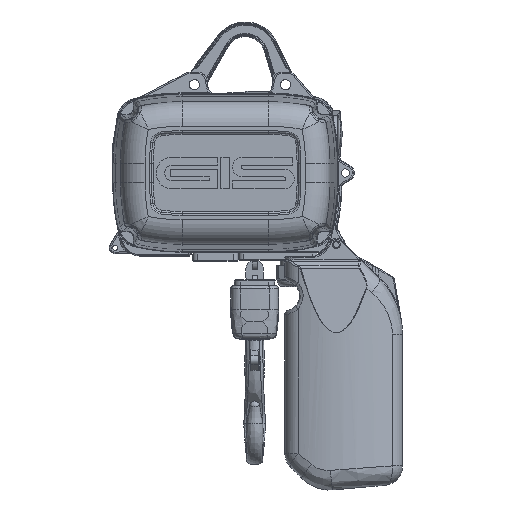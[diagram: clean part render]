
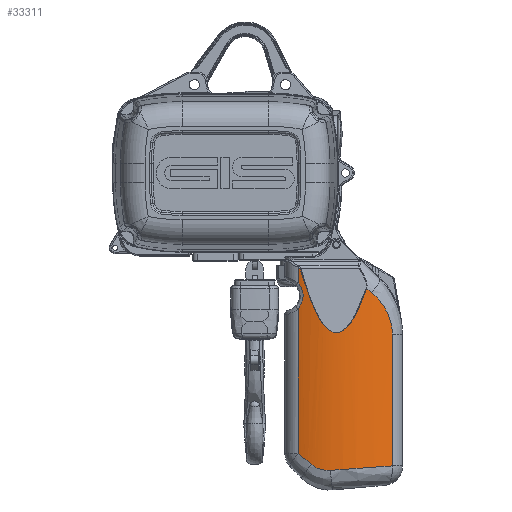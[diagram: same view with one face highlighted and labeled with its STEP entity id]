
A CAD part, front view. The second image highlights one B-rep face of the part: STEP entity #33311.
In plain terms, the highlighted cylindrical face has radius 120 mm (diameter 240 mm), a partial arc.
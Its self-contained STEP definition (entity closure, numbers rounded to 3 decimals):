
#1541=ELLIPSE('',#36800,1354.074,120.);
#1544=ELLIPSE('',#36817,156.205,120.);
#1545=ELLIPSE('',#36820,156.205,120.);
#1546=ELLIPSE('',#36821,120.319,120.);
#2578=B_SPLINE_CURVE_WITH_KNOTS('',3,(#106622,#106623,#106624,#106625,#106626,
#106627,#106628),.UNSPECIFIED.,.F.,.F.,(4,1,1,1,4),(-2.876,-2.054,
-1.643,-0.822,0.),.UNSPECIFIED.);
#2601=B_SPLINE_CURVE_WITH_KNOTS('',3,(#107371,#107372,#107373,#107374,#107375,
#107376),.UNSPECIFIED.,.F.,.F.,(4,1,1,4),(0.,0.129,0.215,
0.302),.UNSPECIFIED.);
#2604=B_SPLINE_CURVE_WITH_KNOTS('',3,(#107501,#107502,#107503,#107504,#107505,
#107506,#107507),.UNSPECIFIED.,.F.,.F.,(4,1,1,1,4),(0.,0.5,
1.001,1.251,1.751),.UNSPECIFIED.);
#2605=B_SPLINE_CURVE_WITH_KNOTS('',3,(#107512,#107513,#107514,#107515,#107516,
#107517,#107518,#107519,#107520,#107521,#107522,#107523,#107524,#107525,
#107526,#107527,#107528,#107529,#107530),.UNSPECIFIED.,.F.,.F.,(4,3,3,3,
3,3,4),(0.,0.681,1.361,2.382,2.722,
4.084,4.764),.UNSPECIFIED.);
#3116=CYLINDRICAL_SURFACE('',#36819,120.);
#5076=FACE_OUTER_BOUND('',#7116,.T.);
#7116=EDGE_LOOP('',(#28572,#28573,#28574,#28575,#28576,#28577,#28578,#28579,
#28580,#28581,#28582));
#10372=LINE('',#106673,#11741);
#10405=LINE('',#107497,#11774);
#10406=LINE('',#107511,#11775);
#11741=VECTOR('',#44841,16.121);
#11774=VECTOR('',#45062,147.514);
#11775=VECTOR('',#45067,134.23);
#14574=VERTEX_POINT('',#106576);
#14575=VERTEX_POINT('',#106620);
#14576=VERTEX_POINT('',#106672);
#14628=VERTEX_POINT('',#107290);
#14630=VERTEX_POINT('',#107335);
#14636=VERTEX_POINT('',#107492);
#14637=VERTEX_POINT('',#107496);
#14638=VERTEX_POINT('',#107498);
#14639=VERTEX_POINT('',#107500);
#14640=VERTEX_POINT('',#107508);
#14641=VERTEX_POINT('',#107510);
#19179=EDGE_CURVE('',#14575,#14574,#2578,.T.);
#19181=EDGE_CURVE('',#14574,#14576,#10372,.T.);
#19277=EDGE_CURVE('',#14630,#14628,#1541,.T.);
#19281=EDGE_CURVE('',#14576,#14630,#2601,.T.);
#19295=EDGE_CURVE('',#14628,#14636,#1544,.T.);
#19297=EDGE_CURVE('',#14637,#14575,#10405,.T.);
#19298=EDGE_CURVE('',#14638,#14637,#1545,.T.);
#19299=EDGE_CURVE('',#14639,#14638,#2604,.T.);
#19300=EDGE_CURVE('',#14640,#14639,#1546,.T.);
#19301=EDGE_CURVE('',#14641,#14640,#10406,.T.);
#19302=EDGE_CURVE('',#14636,#14641,#2605,.T.);
#28572=ORIENTED_EDGE('',*,*,#19179,.F.);
#28573=ORIENTED_EDGE('',*,*,#19297,.F.);
#28574=ORIENTED_EDGE('',*,*,#19298,.F.);
#28575=ORIENTED_EDGE('',*,*,#19299,.F.);
#28576=ORIENTED_EDGE('',*,*,#19300,.F.);
#28577=ORIENTED_EDGE('',*,*,#19301,.F.);
#28578=ORIENTED_EDGE('',*,*,#19302,.F.);
#28579=ORIENTED_EDGE('',*,*,#19295,.F.);
#28580=ORIENTED_EDGE('',*,*,#19277,.F.);
#28581=ORIENTED_EDGE('',*,*,#19281,.F.);
#28582=ORIENTED_EDGE('',*,*,#19181,.F.);
#33311=ADVANCED_FACE('',(#5076),#3116,.T.);
#36800=AXIS2_PLACEMENT_3D('',#107337,#45017,#45018);
#36817=AXIS2_PLACEMENT_3D('',#107493,#45056,#45057);
#36819=AXIS2_PLACEMENT_3D('',#107495,#45060,#45061);
#36820=AXIS2_PLACEMENT_3D('',#107499,#45063,#45064);
#36821=AXIS2_PLACEMENT_3D('',#107509,#45065,#45066);
#44841=DIRECTION('',(0.,1.,0.));
#45017=DIRECTION('center_axis',(0.,0.089,
-0.996));
#45018=DIRECTION('ref_axis',(0.,-0.996,-0.089));
#45056=DIRECTION('center_axis',(-0.64,0.768,0.));
#45057=DIRECTION('ref_axis',(-0.768,-0.64,0.));
#45060=DIRECTION('center_axis',(0.,1.,0.));
#45061=DIRECTION('ref_axis',(0.438,0.,-0.899));
#45062=DIRECTION('',(0.,1.,0.));
#45063=DIRECTION('center_axis',(0.64,-0.768,0.));
#45064=DIRECTION('ref_axis',(0.768,0.64,0.));
#45065=DIRECTION('center_axis',(-0.073,-0.997,
0.));
#45066=DIRECTION('ref_axis',(-0.997,0.073,0.));
#45067=DIRECTION('',(0.,-1.,0.));
#106576=CARTESIAN_POINT('',(-74.3,-112.109,-70.986));
#106620=CARTESIAN_POINT('',(-74.3,-138.28,-70.986));
#106622=CARTESIAN_POINT('Ctrl Pts',(-74.3,-138.28,
-70.986));
#106623=CARTESIAN_POINT('Ctrl Pts',(-76.124,-136.26,
-71.613));
#106624=CARTESIAN_POINT('Ctrl Pts',(-78.251,-132.645,
-72.273));
#106625=CARTESIAN_POINT('Ctrl Pts',(-79.718,-125.914,-72.705));
#106626=CARTESIAN_POINT('Ctrl Pts',(-78.968,-118.951,
-72.492));
#106627=CARTESIAN_POINT('Ctrl Pts',(-76.124,-114.13,
-71.613));
#106628=CARTESIAN_POINT('Ctrl Pts',(-74.3,-112.109,
-70.986));
#106672=CARTESIAN_POINT('',(-74.3,-95.988,-70.986));
#106673=CARTESIAN_POINT('',(-74.3,-353.195,-70.986));
#107290=CARTESIAN_POINT('',(-144.1,-117.6,-73.48));
#107335=CARTESIAN_POINT('',(-76.51,-97.831,-71.721));
#107337=CARTESIAN_POINT('Origin',(-113.3,1185.964,42.5));
#107371=CARTESIAN_POINT('Ctrl Pts',(-74.3,-95.988,
-70.986));
#107372=CARTESIAN_POINT('Ctrl Pts',(-74.682,-96.154,
-71.117));
#107373=CARTESIAN_POINT('Ctrl Pts',(-75.311,-96.474,
-71.33));
#107374=CARTESIAN_POINT('Ctrl Pts',(-76.095,-97.075,
-71.587));
#107375=CARTESIAN_POINT('Ctrl Pts',(-76.433,-97.555,
-71.697));
#107376=CARTESIAN_POINT('Ctrl Pts',(-76.51,-97.831,
-71.721));
#107492=CARTESIAN_POINT('',(-149.212,-121.86,-72.));
#107493=CARTESIAN_POINT('Origin',(-113.3,-91.933,42.5));
#107495=CARTESIAN_POINT('Origin',(-113.3,-353.195,42.5));
#107496=CARTESIAN_POINT('',(-74.3,-285.795,-70.986));
#107497=CARTESIAN_POINT('',(-74.3,-353.195,-70.986));
#107498=CARTESIAN_POINT('',(-88.148,-297.334,-74.834));
#107499=CARTESIAN_POINT('Origin',(-113.3,-318.295,42.5));
#107500=CARTESIAN_POINT('',(-107.21,-303.116,-77.345));
#107501=CARTESIAN_POINT('Ctrl Pts',(-107.21,-303.116,
-77.345));
#107502=CARTESIAN_POINT('Ctrl Pts',(-105.218,-303.261,
-77.244));
#107503=CARTESIAN_POINT('Ctrl Pts',(-101.181,-303.132,
-76.937));
#107504=CARTESIAN_POINT('Ctrl Pts',(-96.378,-301.947,
-76.326));
#107505=CARTESIAN_POINT('Ctrl Pts',(-91.938,-300.05,
-75.606));
#107506=CARTESIAN_POINT('Ctrl Pts',(-89.547,-298.501,
-75.134));
#107507=CARTESIAN_POINT('Ctrl Pts',(-88.148,-297.334,
-74.834));
#107508=CARTESIAN_POINT('',(-170.3,-298.516,-63.098));
#107509=CARTESIAN_POINT('Origin',(-113.3,-302.672,42.5));
#107510=CARTESIAN_POINT('',(-170.3,-164.286,-63.098));
#107511=CARTESIAN_POINT('',(-170.3,-353.195,-63.098));
#107512=CARTESIAN_POINT('Ctrl Pts',(-149.212,-121.86,
-72.));
#107513=CARTESIAN_POINT('Ctrl Pts',(-151.091,-123.426,
-71.411));
#107514=CARTESIAN_POINT('Ctrl Pts',(-152.871,-125.084,
-70.802));
#107515=CARTESIAN_POINT('Ctrl Pts',(-154.532,-126.815,
-70.194));
#107516=CARTESIAN_POINT('Ctrl Pts',(-156.194,-128.546,
-69.586));
#107517=CARTESIAN_POINT('Ctrl Pts',(-157.738,-130.35,
-68.979));
#107518=CARTESIAN_POINT('Ctrl Pts',(-159.161,-132.227,
-68.391));
#107519=CARTESIAN_POINT('Ctrl Pts',(-161.296,-135.041,
-67.508));
#107520=CARTESIAN_POINT('Ctrl Pts',(-163.157,-138.018,
-66.666));
#107521=CARTESIAN_POINT('Ctrl Pts',(-164.712,-141.109,-65.929));
#107522=CARTESIAN_POINT('Ctrl Pts',(-165.23,-142.139,
-65.683));
#107523=CARTESIAN_POINT('Ctrl Pts',(-165.714,-143.182,
-65.449));
#107524=CARTESIAN_POINT('Ctrl Pts',(-166.163,-144.239,
-65.229));
#107525=CARTESIAN_POINT('Ctrl Pts',(-167.962,-148.469,
-64.346));
#107526=CARTESIAN_POINT('Ctrl Pts',(-169.212,-152.934,
-63.681));
#107527=CARTESIAN_POINT('Ctrl Pts',(-169.834,-157.467,
-63.348));
#107528=CARTESIAN_POINT('Ctrl Pts',(-170.146,-159.734,
-63.182));
#107529=CARTESIAN_POINT('Ctrl Pts',(-170.3,-162.017,
-63.098));
#107530=CARTESIAN_POINT('Ctrl Pts',(-170.3,-164.286,
-63.098));
